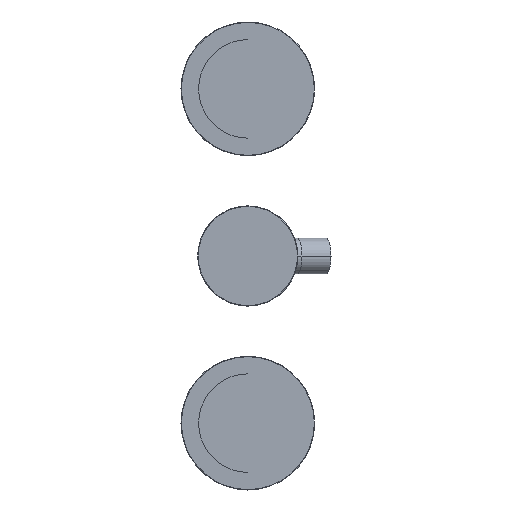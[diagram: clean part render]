
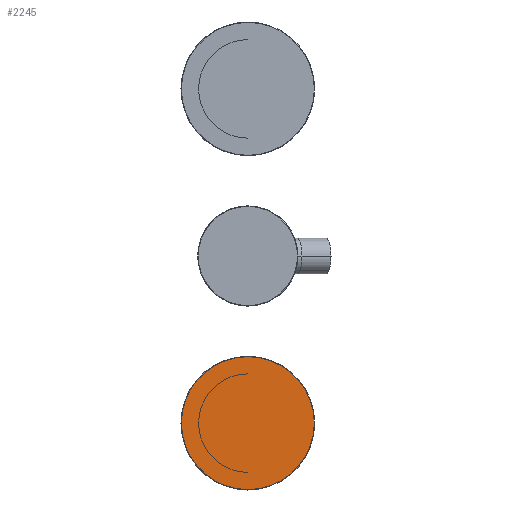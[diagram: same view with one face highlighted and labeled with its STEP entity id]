
A CAD part, left-side view. The second image highlights one B-rep face of the part: STEP entity #2245.
In plain terms, the highlighted planar face has unit normal (-1, 0, 0).
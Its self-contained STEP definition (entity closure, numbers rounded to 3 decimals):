
#536=CARTESIAN_POINT('',(0.,0.,0.));
#537=DIRECTION('',(-1.,0.,0.));
#538=DIRECTION('',(0.,0.,1.));
#539=AXIS2_PLACEMENT_3D('',#536,#537,#538);
#541=CARTESIAN_POINT('',(0.,0.,0.));
#542=DIRECTION('',(-1.,0.,0.));
#543=DIRECTION('',(0.,0.,-1.));
#544=AXIS2_PLACEMENT_3D('',#541,#542,#543);
#1936=CARTESIAN_POINT('',(0.,0.,-39.75));
#1938=VERTEX_POINT('',#1936);
#1943=CARTESIAN_POINT('',(0.,0.,39.75));
#1944=VERTEX_POINT('',#1943);
#2236=CARTESIAN_POINT('',(0.,0.,0.));
#2237=DIRECTION('',(1.,0.,0.));
#2238=DIRECTION('',(0.,0.,1.));
#2239=AXIS2_PLACEMENT_3D('',#2236,#2237,#2238);
#2240=PLANE('',#2239);
#2241=ORIENTED_EDGE('',*,*,#2204,.F.);
#2242=ORIENTED_EDGE('',*,*,#2221,.F.);
#2243=EDGE_LOOP('',(#2241,#2242));
#2244=FACE_OUTER_BOUND('',#2243,.F.);
#540=CIRCLE('',#539,39.75);
#545=CIRCLE('',#544,39.75);
#2204=EDGE_CURVE('',#1944,#1938,#540,.T.);
#2221=EDGE_CURVE('',#1938,#1944,#545,.T.);
#2245=ADVANCED_FACE('',(#2244),#2240,.F.);
